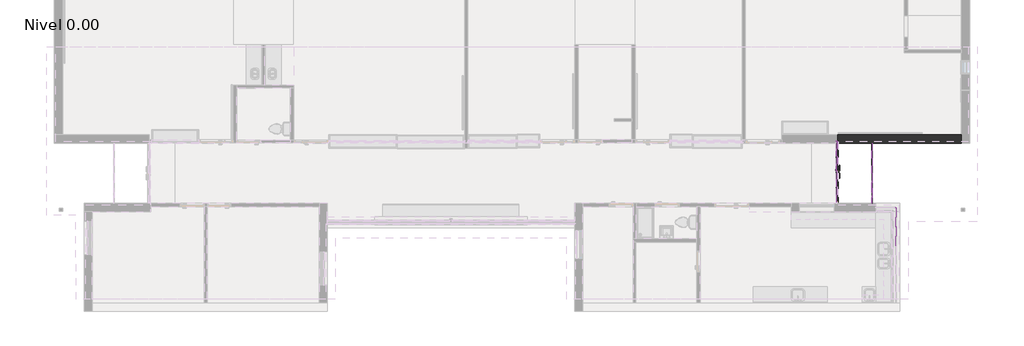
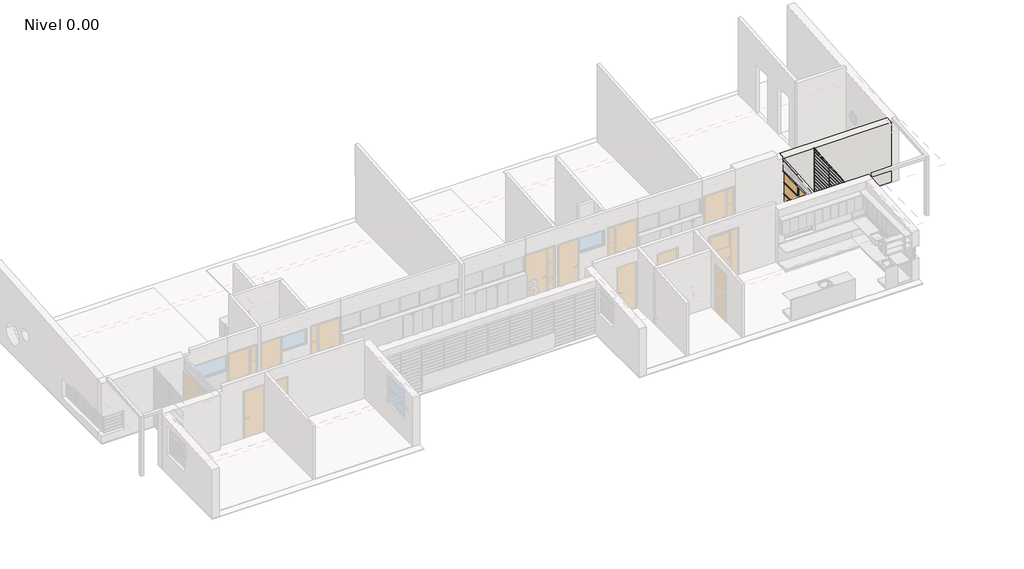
# One storey, part 11 of 27: 88 members, 38 plates, 1 door, 1 wall.
"""IFC4 building model written with IfcOpenShell, lengths in millimetres."""

from ifc_helpers import new_model, si_unit, origin, place, context, project, spatial, faceted_brep, transform, mapped, element, save
from components import door_a64e3521, circular_mullion_800c9cf9, circular_mullion_ed335fbc, circular_mullion_096046af, circular_mullion_f5175227, l_corner_mullion_f6289c26, l_corner_mullion_42859779, l_corner_mullion_7e269581, l_corner_mullion_4a4ba9d3, l_corner_mullion_ea8db583, rectangular_mullion_e6a18c8c, rectangular_mullion_ff7ab27e, rectangular_mullion_c34d28c6, rectangular_mullion_0e712f1e, rectangular_mullion_3ce97fec, rectangular_mullion_3f5f0f74, rectangular_mullion_a5abb8e0, rectangular_mullion_363bff1e, rectangular_mullion_2051d734, rectangular_mullion_823d3a73, rectangular_mullion_cfaebaba, rectangular_mullion_499acf86, rectangular_mullion_331b5978, rectangular_mullion_2d035fdd, system_panel_9483af97, system_panel_162e740d, system_panel_b2f76736, system_panel_09b09f1b, system_panel_1aced122, system_panel_28e329e3, system_panel_b9515c6a, system_panel_71210e79, system_panel_glazed_c627329a, system_panel_glazed_638efc96

model = new_model("IFC4")

# Units and contexts
model_context = context("Model", 3, world=origin())
ifc_project = project(units=[si_unit("LENGTHUNIT", "METRE", prefix="MILLI")], contexts=[model_context])

# Site, building, storey
site = spatial("IfcSite", under=ifc_project)
building = spatial("IfcBuilding", under=site)
storey = spatial("IfcBuildingStorey", under=building, Name="Nivel 0.00", Elevation=0.0)

# Door
placement = place(None, origin())
door_shape = door_a64e3521(model_context)
element("IfcDoor", 1, ObjectType="PUERTA_ACCESO : PUERTA_ACCESO", at=placement, inside=storey, context=model_context, shape_type="MappedRepresentation", body=[
    mapped(door_shape, transform((12973.3180123, -1916.8641749, 30.0), x_axis=(0.0, -1.0, 0.0), y_axis=(1.0, 0.0, 0.0), z_axis=(0.0, 0.0, 1.0))),
])

# Members
circular_mullion_shape = circular_mullion_800c9cf9(model_context)
element("IfcMember", 2, ObjectType="Circular Mullion : ARQ_HERR_16mm", at=placement, inside=storey, context=model_context, shape_type="MappedRepresentation", body=[
    mapped(circular_mullion_shape, transform((15175.5015264, -3955.4185966, 1362.5), x_axis=(0.0, 0.0, 1.0), y_axis=(1.0, 0.0, 0.0), z_axis=(0.0, 1.0, 0.0))),
])
element("IfcMember", 3, ObjectType="Circular Mullion : ARQ_HERR_16mm", at=placement, inside=storey, context=model_context, shape_type="MappedRepresentation", body=[
    mapped(circular_mullion_shape, transform((15175.5015264, -3246.6637592, 1362.5), x_axis=(0.0, 0.0, 1.0), y_axis=(1.0, 0.0, 0.0), z_axis=(0.0, 1.0, 0.0))),
])
circular_mullion_2_shape = circular_mullion_ed335fbc(model_context)
element("IfcMember", 4, ObjectType="Circular Mullion : ARQ_HERR_16mm", at=placement, inside=storey, context=model_context, shape_type="MappedRepresentation", body=[
    mapped(circular_mullion_2_shape, transform((14293.3180123, -1972.3936718, 148.033564), x_axis=(0.0, 0.0, 1.0), y_axis=(1.0, 0.0, 0.0), z_axis=(0.0, 1.0, 0.0))),
])
element("IfcMember", 5, ObjectType="Circular Mullion : ARQ_HERR_16mm", at=placement, inside=storey, context=model_context, shape_type="MappedRepresentation", body=[
    mapped(circular_mullion_2_shape, transform((14293.3180123, -854.1235845, 148.033564), x_axis=(0.0, 0.0, 1.0), y_axis=(1.0, 0.0, 0.0), z_axis=(0.0, 1.0, 0.0))),
])
element("IfcMember", 6, ObjectType="Circular Mullion : ARQ_HERR_16mm", at=placement, inside=storey, context=model_context, shape_type="MappedRepresentation", body=[
    mapped(circular_mullion_2_shape, transform((14293.3180123, -1972.3936718, 296.0671279), x_axis=(0.0, 0.0, 1.0), y_axis=(1.0, 0.0, 0.0), z_axis=(0.0, 1.0, 0.0))),
])
element("IfcMember", 7, ObjectType="Circular Mullion : ARQ_HERR_16mm", at=placement, inside=storey, context=model_context, shape_type="MappedRepresentation", body=[
    mapped(circular_mullion_2_shape, transform((14293.3180123, -854.1235845, 296.0671279), x_axis=(0.0, 0.0, 1.0), y_axis=(1.0, 0.0, 0.0), z_axis=(0.0, 1.0, 0.0))),
])
element("IfcMember", 8, ObjectType="Circular Mullion : ARQ_HERR_16mm", at=placement, inside=storey, context=model_context, shape_type="MappedRepresentation", body=[
    mapped(circular_mullion_2_shape, transform((14293.3180123, -1972.3936718, 444.1006919), x_axis=(0.0, 0.0, 1.0), y_axis=(1.0, 0.0, 0.0), z_axis=(0.0, 1.0, 0.0))),
])
element("IfcMember", 9, ObjectType="Circular Mullion : ARQ_HERR_16mm", at=placement, inside=storey, context=model_context, shape_type="MappedRepresentation", body=[
    mapped(circular_mullion_2_shape, transform((14293.3180123, -854.1235845, 444.1006919), x_axis=(0.0, 0.0, 1.0), y_axis=(1.0, 0.0, 0.0), z_axis=(0.0, 1.0, 0.0))),
])
element("IfcMember", 10, ObjectType="Circular Mullion : ARQ_HERR_16mm", at=placement, inside=storey, context=model_context, shape_type="MappedRepresentation", body=[
    mapped(circular_mullion_2_shape, transform((14293.3180123, -1972.3936718, 592.1342559), x_axis=(0.0, 0.0, 1.0), y_axis=(1.0, 0.0, 0.0), z_axis=(0.0, 1.0, 0.0))),
])
element("IfcMember", 11, ObjectType="Circular Mullion : ARQ_HERR_16mm", at=placement, inside=storey, context=model_context, shape_type="MappedRepresentation", body=[
    mapped(circular_mullion_2_shape, transform((14293.3180123, -854.1235845, 592.1342559), x_axis=(0.0, 0.0, 1.0), y_axis=(1.0, 0.0, 0.0), z_axis=(0.0, 1.0, 0.0))),
])
element("IfcMember", 12, ObjectType="Circular Mullion : ARQ_HERR_16mm", at=placement, inside=storey, context=model_context, shape_type="MappedRepresentation", body=[
    mapped(circular_mullion_2_shape, transform((14293.3180123, -1972.3936718, 740.1678198), x_axis=(0.0, 0.0, 1.0), y_axis=(1.0, 0.0, 0.0), z_axis=(0.0, 1.0, 0.0))),
])
element("IfcMember", 13, ObjectType="Circular Mullion : ARQ_HERR_16mm", at=placement, inside=storey, context=model_context, shape_type="MappedRepresentation", body=[
    mapped(circular_mullion_2_shape, transform((14293.3180123, -854.1235845, 740.1678198), x_axis=(0.0, 0.0, 1.0), y_axis=(1.0, 0.0, 0.0), z_axis=(0.0, 1.0, 0.0))),
])
element("IfcMember", 14, ObjectType="Circular Mullion : ARQ_HERR_16mm", at=placement, inside=storey, context=model_context, shape_type="MappedRepresentation", body=[
    mapped(circular_mullion_2_shape, transform((14293.3180123, -1972.3936718, 888.2013838), x_axis=(0.0, 0.0, 1.0), y_axis=(1.0, 0.0, 0.0), z_axis=(0.0, 1.0, 0.0))),
])
element("IfcMember", 15, ObjectType="Circular Mullion : ARQ_HERR_16mm", at=placement, inside=storey, context=model_context, shape_type="MappedRepresentation", body=[
    mapped(circular_mullion_2_shape, transform((14293.3180123, -854.1235845, 888.2013838), x_axis=(0.0, 0.0, 1.0), y_axis=(1.0, 0.0, 0.0), z_axis=(0.0, 1.0, 0.0))),
])
element("IfcMember", 16, ObjectType="Circular Mullion : ARQ_HERR_16mm", at=placement, inside=storey, context=model_context, shape_type="MappedRepresentation", body=[
    mapped(circular_mullion_2_shape, transform((14293.3180123, -1972.3936718, 1036.2349478), x_axis=(0.0, 0.0, 1.0), y_axis=(1.0, 0.0, 0.0), z_axis=(0.0, 1.0, 0.0))),
])
element("IfcMember", 17, ObjectType="Circular Mullion : ARQ_HERR_16mm", at=placement, inside=storey, context=model_context, shape_type="MappedRepresentation", body=[
    mapped(circular_mullion_2_shape, transform((14293.3180123, -854.1235845, 1036.2349478), x_axis=(0.0, 0.0, 1.0), y_axis=(1.0, 0.0, 0.0), z_axis=(0.0, 1.0, 0.0))),
])
element("IfcMember", 18, ObjectType="Circular Mullion : ARQ_HERR_16mm", at=placement, inside=storey, context=model_context, shape_type="MappedRepresentation", body=[
    mapped(circular_mullion_2_shape, transform((14293.3180123, -1972.3936718, 1184.2685118), x_axis=(0.0, 0.0, 1.0), y_axis=(1.0, 0.0, 0.0), z_axis=(0.0, 1.0, 0.0))),
])
element("IfcMember", 19, ObjectType="Circular Mullion : ARQ_HERR_16mm", at=placement, inside=storey, context=model_context, shape_type="MappedRepresentation", body=[
    mapped(circular_mullion_2_shape, transform((14293.3180123, -854.1235845, 1184.2685118), x_axis=(0.0, 0.0, 1.0), y_axis=(1.0, 0.0, 0.0), z_axis=(0.0, 1.0, 0.0))),
])
element("IfcMember", 20, ObjectType="Circular Mullion : ARQ_HERR_16mm", at=placement, inside=storey, context=model_context, shape_type="MappedRepresentation", body=[
    mapped(circular_mullion_2_shape, transform((14293.3180123, -1972.3936718, 1332.3020757), x_axis=(0.0, 0.0, 1.0), y_axis=(1.0, 0.0, 0.0), z_axis=(0.0, 1.0, 0.0))),
])
element("IfcMember", 21, ObjectType="Circular Mullion : ARQ_HERR_16mm", at=placement, inside=storey, context=model_context, shape_type="MappedRepresentation", body=[
    mapped(circular_mullion_2_shape, transform((14293.3180123, -854.1235845, 1332.3020757), x_axis=(0.0, 0.0, 1.0), y_axis=(1.0, 0.0, 0.0), z_axis=(0.0, 1.0, 0.0))),
])
element("IfcMember", 22, ObjectType="Circular Mullion : ARQ_HERR_16mm", at=placement, inside=storey, context=model_context, shape_type="MappedRepresentation", body=[
    mapped(circular_mullion_2_shape, transform((14293.3180123, -1972.3936718, 1480.3356397), x_axis=(0.0, 0.0, 1.0), y_axis=(1.0, 0.0, 0.0), z_axis=(0.0, 1.0, 0.0))),
])
element("IfcMember", 23, ObjectType="Circular Mullion : ARQ_HERR_16mm", at=placement, inside=storey, context=model_context, shape_type="MappedRepresentation", body=[
    mapped(circular_mullion_2_shape, transform((14293.3180123, -854.1235845, 1480.3356397), x_axis=(0.0, 0.0, 1.0), y_axis=(1.0, 0.0, 0.0), z_axis=(0.0, 1.0, 0.0))),
])
element("IfcMember", 24, ObjectType="Circular Mullion : ARQ_HERR_16mm", at=placement, inside=storey, context=model_context, shape_type="MappedRepresentation", body=[
    mapped(circular_mullion_2_shape, transform((14293.3180123, -1972.3936718, 1628.3692037), x_axis=(0.0, 0.0, 1.0), y_axis=(1.0, 0.0, 0.0), z_axis=(0.0, 1.0, 0.0))),
])
element("IfcMember", 25, ObjectType="Circular Mullion : ARQ_HERR_16mm", at=placement, inside=storey, context=model_context, shape_type="MappedRepresentation", body=[
    mapped(circular_mullion_2_shape, transform((14293.3180123, -854.1235845, 1628.3692037), x_axis=(0.0, 0.0, 1.0), y_axis=(1.0, 0.0, 0.0), z_axis=(0.0, 1.0, 0.0))),
])
element("IfcMember", 26, ObjectType="Circular Mullion : ARQ_HERR_16mm", at=placement, inside=storey, context=model_context, shape_type="MappedRepresentation", body=[
    mapped(circular_mullion_2_shape, transform((14293.3180123, -1972.3936718, 1776.4027676), x_axis=(0.0, 0.0, 1.0), y_axis=(1.0, 0.0, 0.0), z_axis=(0.0, 1.0, 0.0))),
])
element("IfcMember", 27, ObjectType="Circular Mullion : ARQ_HERR_16mm", at=placement, inside=storey, context=model_context, shape_type="MappedRepresentation", body=[
    mapped(circular_mullion_2_shape, transform((14293.3180123, -854.1235845, 1776.4027676), x_axis=(0.0, 0.0, 1.0), y_axis=(1.0, 0.0, 0.0), z_axis=(0.0, 1.0, 0.0))),
])
element("IfcMember", 28, ObjectType="Circular Mullion : ARQ_HERR_16mm", at=placement, inside=storey, context=model_context, shape_type="MappedRepresentation", body=[
    mapped(circular_mullion_2_shape, transform((14293.3180123, -1972.3936718, 1924.4363316), x_axis=(0.0, 0.0, 1.0), y_axis=(1.0, 0.0, 0.0), z_axis=(0.0, 1.0, 0.0))),
])
element("IfcMember", 29, ObjectType="Circular Mullion : ARQ_HERR_16mm", at=placement, inside=storey, context=model_context, shape_type="MappedRepresentation", body=[
    mapped(circular_mullion_2_shape, transform((14293.3180123, -854.1235845, 1924.4363316), x_axis=(0.0, 0.0, 1.0), y_axis=(1.0, 0.0, 0.0), z_axis=(0.0, 1.0, 0.0))),
])
circular_mullion_3_shape = circular_mullion_096046af(model_context)
element("IfcMember", 30, ObjectType="Circular Mullion : ARQ_HERR_16mm", at=placement, inside=storey, context=model_context, shape_type="MappedRepresentation", body=[
    mapped(circular_mullion_3_shape, transform((14293.3180123, -1969.3936718, 2220.5034595), x_axis=(0.0, 0.0, 1.0), y_axis=(1.0, 0.0, 0.0), z_axis=(0.0, 1.0, 0.0))),
])
element("IfcMember", 31, ObjectType="Circular Mullion : ARQ_HERR_16mm", at=placement, inside=storey, context=model_context, shape_type="MappedRepresentation", body=[
    mapped(circular_mullion_3_shape, transform((14293.3180123, -1969.3936718, 2368.5370235), x_axis=(0.0, 0.0, 1.0), y_axis=(1.0, 0.0, 0.0), z_axis=(0.0, 1.0, 0.0))),
])
element("IfcMember", 32, ObjectType="Circular Mullion : ARQ_HERR_16mm", at=placement, inside=storey, context=model_context, shape_type="MappedRepresentation", body=[
    mapped(circular_mullion_3_shape, transform((14293.3180123, -854.1235845, 2220.5034595), x_axis=(0.0, 0.0, 1.0), y_axis=(1.0, 0.0, 0.0), z_axis=(0.0, 1.0, 0.0))),
])
element("IfcMember", 33, ObjectType="Circular Mullion : ARQ_HERR_16mm", at=placement, inside=storey, context=model_context, shape_type="MappedRepresentation", body=[
    mapped(circular_mullion_3_shape, transform((14293.3180123, -854.1235845, 2368.5370235), x_axis=(0.0, 0.0, 1.0), y_axis=(1.0, 0.0, 0.0), z_axis=(0.0, 1.0, 0.0))),
])
element("IfcMember", 34, ObjectType="Circular Mullion : ARQ_HERR_16mm", at=placement, inside=storey, context=model_context, shape_type="MappedRepresentation", body=[
    mapped(circular_mullion_3_shape, transform((14293.3180123, -854.1235845, 2516.5705875), x_axis=(0.0, 0.0, 1.0), y_axis=(1.0, 0.0, 0.0), z_axis=(0.0, 1.0, 0.0))),
])
circular_mullion_4_shape = circular_mullion_f5175227(model_context)
element("IfcMember", 35, ObjectType="Circular Mullion : ARQ_HERR_16mm", at=placement, inside=storey, context=model_context, shape_type="MappedRepresentation", body=[
    mapped(circular_mullion_4_shape, transform((14293.3180123, -1969.3936718, 2516.5705875), x_axis=(0.0, 0.0, 1.0), y_axis=(1.0, 0.0, 0.0), z_axis=(0.0, 1.0, 0.0))),
])
l_corner_mullion_shape = l_corner_mullion_f6289c26(model_context)
element("IfcMember", 36, ObjectType="L Corner Mullion : ARQ_HERR_15X6mm", at=placement, inside=storey, context=model_context, shape_type="MappedRepresentation", body=[
    mapped(l_corner_mullion_shape, transform((15162.0015264, -3239.1638203, 950.0), x_axis=(0.0, 0.0, -1.0), y_axis=(0.0, 1.0, 0.0), z_axis=(1.0, 0.0, 0.0))),
])
l_corner_mullion_2_shape = l_corner_mullion_42859779(model_context)
element("IfcMember", 37, ObjectType="L Corner Mullion : ARQ_HERR_15X6mm", at=placement, inside=storey, context=model_context, shape_type="MappedRepresentation", body=[
    mapped(l_corner_mullion_2_shape, transform((14293.3180123, -1966.3936718, 0.0), x_axis=(0.0, 0.0, -1.0), y_axis=(1.0, 0.0, 0.0), z_axis=(0.0, -1.0, 0.0))),
])
l_corner_mullion_3_shape = l_corner_mullion_7e269581(model_context)
element("IfcMember", 38, ObjectType="L Corner Mullion : ARQ_HERR_15X6mm", at=placement, inside=storey, context=model_context, shape_type="MappedRepresentation", body=[
    mapped(l_corner_mullion_3_shape, transform((14293.3180123, -848.1235845, 2664.6041514), x_axis=(0.0, -0.08041785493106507, 0.9967612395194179), y_axis=(1.0, 0.0, 0.0), z_axis=(0.0, 0.9967612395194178, 0.08041785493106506))),
])
l_corner_mullion_4_shape = l_corner_mullion_4a4ba9d3(model_context)
element("IfcMember", 39, ObjectType="L Corner Mullion : ARQ_HERR_15X6mm", at=placement, inside=storey, context=model_context, shape_type="MappedRepresentation", body=[
    mapped(l_corner_mullion_4_shape, transform((14293.3180123, -1969.3936718, 2574.1410278), x_axis=(0.0, -0.08041785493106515, 0.9967612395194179), y_axis=(1.0, 0.0, 0.0), z_axis=(0.0, 0.9967612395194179, 0.08041785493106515))),
])
l_corner_mullion_5_shape = l_corner_mullion_ea8db583(model_context)
element("IfcMember", 40, ObjectType="L Corner Mullion : ARQ_HERR_15X6mm", at=placement, inside=storey, context=model_context, shape_type="MappedRepresentation", body=[
    mapped(l_corner_mullion_5_shape, transform((14293.3180123, -2682.9663422, 2516.5705875), x_axis=(0.0, -0.08041785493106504, 0.9967612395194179), y_axis=(1.0, 0.0, 0.0), z_axis=(0.0, 0.9967612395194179, 0.08041785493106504))),
])
rectangular_mullion_shape = rectangular_mullion_e6a18c8c(model_context)
element("IfcMember", 41, ObjectType="Rectangular Mullion : ARQ_TV_MULL_50x30mm", at=placement, inside=storey, context=model_context, shape_type="MappedRepresentation", body=[
    mapped(rectangular_mullion_shape, transform((12973.3180123, -780.6235845, 0.0), x_axis=(0.0, 0.0, -1.0), y_axis=(-1.0, 0.0, 0.0), z_axis=(0.0, 1.0, 0.0))),
])
rectangular_mullion_2_shape = rectangular_mullion_ff7ab27e(model_context)
element("IfcMember", 42, ObjectType="Rectangular Mullion : ARQ_TV_MULL_50x30mm", at=placement, inside=storey, context=model_context, shape_type="MappedRepresentation", body=[
    mapped(rectangular_mullion_2_shape, transform((12973.3180123, -1901.8641749, 0.0), x_axis=(0.0, 0.0, -1.0), y_axis=(-1.0, 0.0, 0.0), z_axis=(0.0, 1.0, 0.0))),
])
rectangular_mullion_3_shape = rectangular_mullion_c34d28c6(model_context)
element("IfcMember", 43, ObjectType="Rectangular Mullion : ARQ_TV_MULL_50x30mm", at=placement, inside=storey, context=model_context, shape_type="MappedRepresentation", body=[
    mapped(rectangular_mullion_3_shape, transform((12973.3180123, -1901.8641749, 2100.0), x_axis=(0.0, 0.0, 1.0), y_axis=(-1.0, 0.0, 0.0), z_axis=(0.0, -1.0, 0.0))),
])
rectangular_mullion_4_shape = rectangular_mullion_0e712f1e(model_context)
element("IfcMember", 44, ObjectType="Rectangular Mullion : ARQ_HERR_15X6mm", at=placement, inside=storey, context=model_context, shape_type="MappedRepresentation", body=[
    mapped(rectangular_mullion_4_shape, transform((15175.5015264, -3952.4185966, 950.0), x_axis=(0.0, 1.0, 0.0), y_axis=(1.0, 0.0, 0.0), z_axis=(0.0, 0.0, -1.0))),
])
element("IfcMember", 45, ObjectType="Rectangular Mullion : ARQ_HERR_15X6mm", at=placement, inside=storey, context=model_context, shape_type="MappedRepresentation", body=[
    mapped(rectangular_mullion_4_shape, transform((15175.5015264, -3952.4185966, 1087.5), x_axis=(0.0, 1.0, 0.0), y_axis=(1.0, 0.0, 0.0), z_axis=(0.0, 0.0, -1.0))),
])
element("IfcMember", 46, ObjectType="Rectangular Mullion : ARQ_HERR_15X6mm", at=placement, inside=storey, context=model_context, shape_type="MappedRepresentation", body=[
    mapped(rectangular_mullion_4_shape, transform((15175.5015264, -3952.4185966, 1225.0), x_axis=(0.0, 1.0, 0.0), y_axis=(1.0, 0.0, 0.0), z_axis=(0.0, 0.0, -1.0))),
])
element("IfcMember", 47, ObjectType="Rectangular Mullion : ARQ_HERR_15X6mm", at=placement, inside=storey, context=model_context, shape_type="MappedRepresentation", body=[
    mapped(rectangular_mullion_4_shape, transform((15175.5015264, -3952.4185966, 1362.5), x_axis=(0.0, 1.0, 0.0), y_axis=(1.0, 0.0, 0.0), z_axis=(0.0, 0.0, -1.0))),
])
rectangular_mullion_5_shape = rectangular_mullion_3ce97fec(model_context)
element("IfcMember", 48, ObjectType="Rectangular Mullion : ARQ_HERR_15X6mm", at=placement, inside=storey, context=model_context, shape_type="MappedRepresentation", body=[
    mapped(rectangular_mullion_5_shape, transform((15168.0015264, -3239.1638203, 1500.0), x_axis=(1.0, 0.0, 0.0), y_axis=(0.0, 1.0, 0.0), z_axis=(0.0, 0.0, 1.0))),
])
element("IfcMember", 49, ObjectType="Rectangular Mullion : ARQ_HERR_15X6mm", at=placement, inside=storey, context=model_context, shape_type="MappedRepresentation", body=[
    mapped(rectangular_mullion_5_shape, transform((15168.0015264, -3239.1638203, 1087.5), x_axis=(1.0, 0.0, 0.0), y_axis=(0.0, 1.0, 0.0), z_axis=(0.0, 0.0, 1.0))),
])
element("IfcMember", 50, ObjectType="Rectangular Mullion : ARQ_HERR_15X6mm", at=placement, inside=storey, context=model_context, shape_type="MappedRepresentation", body=[
    mapped(rectangular_mullion_5_shape, transform((15168.0015264, -3239.1638203, 1225.0), x_axis=(1.0, 0.0, 0.0), y_axis=(0.0, 1.0, 0.0), z_axis=(0.0, 0.0, 1.0))),
])
element("IfcMember", 51, ObjectType="Rectangular Mullion : ARQ_HERR_15X6mm", at=placement, inside=storey, context=model_context, shape_type="MappedRepresentation", body=[
    mapped(rectangular_mullion_5_shape, transform((15168.0015264, -3239.1638203, 1362.5), x_axis=(1.0, 0.0, 0.0), y_axis=(0.0, 1.0, 0.0), z_axis=(0.0, 0.0, 1.0))),
])
rectangular_mullion_6_shape = rectangular_mullion_3f5f0f74(model_context)
element("IfcMember", 52, ObjectType="Rectangular Mullion : ARQ_HERR_15X6mm", at=placement, inside=storey, context=model_context, shape_type="MappedRepresentation", body=[
    mapped(rectangular_mullion_6_shape, transform((14293.3180123, -1969.3936718, 0.0), x_axis=(0.0, 1.0, 0.0), y_axis=(1.0, 0.0, 0.0), z_axis=(0.0, 0.0, -1.0))),
])
element("IfcMember", 53, ObjectType="Rectangular Mullion : ARQ_HERR_15X6mm", at=placement, inside=storey, context=model_context, shape_type="MappedRepresentation", body=[
    mapped(rectangular_mullion_6_shape, transform((14293.3180123, -1969.3936718, 148.033564), x_axis=(0.0, 1.0, 0.0), y_axis=(1.0, 0.0, 0.0), z_axis=(0.0, 0.0, -1.0))),
])
element("IfcMember", 54, ObjectType="Rectangular Mullion : ARQ_HERR_15X6mm", at=placement, inside=storey, context=model_context, shape_type="MappedRepresentation", body=[
    mapped(rectangular_mullion_6_shape, transform((14293.3180123, -1969.3936718, 296.0671279), x_axis=(0.0, 1.0, 0.0), y_axis=(1.0, 0.0, 0.0), z_axis=(0.0, 0.0, -1.0))),
])
element("IfcMember", 55, ObjectType="Rectangular Mullion : ARQ_HERR_15X6mm", at=placement, inside=storey, context=model_context, shape_type="MappedRepresentation", body=[
    mapped(rectangular_mullion_6_shape, transform((14293.3180123, -1969.3936718, 444.1006919), x_axis=(0.0, 1.0, 0.0), y_axis=(1.0, 0.0, 0.0), z_axis=(0.0, 0.0, -1.0))),
])
element("IfcMember", 56, ObjectType="Rectangular Mullion : ARQ_HERR_15X6mm", at=placement, inside=storey, context=model_context, shape_type="MappedRepresentation", body=[
    mapped(rectangular_mullion_6_shape, transform((14293.3180123, -1969.3936718, 592.1342559), x_axis=(0.0, 1.0, 0.0), y_axis=(1.0, 0.0, 0.0), z_axis=(0.0, 0.0, -1.0))),
])
element("IfcMember", 57, ObjectType="Rectangular Mullion : ARQ_HERR_15X6mm", at=placement, inside=storey, context=model_context, shape_type="MappedRepresentation", body=[
    mapped(rectangular_mullion_6_shape, transform((14293.3180123, -1969.3936718, 740.1678198), x_axis=(0.0, 1.0, 0.0), y_axis=(1.0, 0.0, 0.0), z_axis=(0.0, 0.0, -1.0))),
])
element("IfcMember", 58, ObjectType="Rectangular Mullion : ARQ_HERR_15X6mm", at=placement, inside=storey, context=model_context, shape_type="MappedRepresentation", body=[
    mapped(rectangular_mullion_6_shape, transform((14293.3180123, -1969.3936718, 888.2013838), x_axis=(0.0, 1.0, 0.0), y_axis=(1.0, 0.0, 0.0), z_axis=(0.0, 0.0, -1.0))),
])
element("IfcMember", 59, ObjectType="Rectangular Mullion : ARQ_HERR_15X6mm", at=placement, inside=storey, context=model_context, shape_type="MappedRepresentation", body=[
    mapped(rectangular_mullion_6_shape, transform((14293.3180123, -1969.3936718, 1036.2349478), x_axis=(0.0, 1.0, 0.0), y_axis=(1.0, 0.0, 0.0), z_axis=(0.0, 0.0, -1.0))),
])
element("IfcMember", 60, ObjectType="Rectangular Mullion : ARQ_HERR_15X6mm", at=placement, inside=storey, context=model_context, shape_type="MappedRepresentation", body=[
    mapped(rectangular_mullion_6_shape, transform((14293.3180123, -1969.3936718, 1184.2685118), x_axis=(0.0, 1.0, 0.0), y_axis=(1.0, 0.0, 0.0), z_axis=(0.0, 0.0, -1.0))),
])
element("IfcMember", 61, ObjectType="Rectangular Mullion : ARQ_HERR_15X6mm", at=placement, inside=storey, context=model_context, shape_type="MappedRepresentation", body=[
    mapped(rectangular_mullion_6_shape, transform((14293.3180123, -1969.3936718, 1332.3020757), x_axis=(0.0, 1.0, 0.0), y_axis=(1.0, 0.0, 0.0), z_axis=(0.0, 0.0, -1.0))),
])
element("IfcMember", 62, ObjectType="Rectangular Mullion : ARQ_HERR_15X6mm", at=placement, inside=storey, context=model_context, shape_type="MappedRepresentation", body=[
    mapped(rectangular_mullion_6_shape, transform((14293.3180123, -1969.3936718, 1480.3356397), x_axis=(0.0, 1.0, 0.0), y_axis=(1.0, 0.0, 0.0), z_axis=(0.0, 0.0, -1.0))),
])
element("IfcMember", 63, ObjectType="Rectangular Mullion : ARQ_HERR_15X6mm", at=placement, inside=storey, context=model_context, shape_type="MappedRepresentation", body=[
    mapped(rectangular_mullion_6_shape, transform((14293.3180123, -1969.3936718, 1628.3692037), x_axis=(0.0, 1.0, 0.0), y_axis=(1.0, 0.0, 0.0), z_axis=(0.0, 0.0, -1.0))),
])
element("IfcMember", 64, ObjectType="Rectangular Mullion : ARQ_HERR_15X6mm", at=placement, inside=storey, context=model_context, shape_type="MappedRepresentation", body=[
    mapped(rectangular_mullion_6_shape, transform((14293.3180123, -1969.3936718, 1776.4027676), x_axis=(0.0, 1.0, 0.0), y_axis=(1.0, 0.0, 0.0), z_axis=(0.0, 0.0, -1.0))),
])
rectangular_mullion_7_shape = rectangular_mullion_a5abb8e0(model_context)
element("IfcMember", 65, ObjectType="Rectangular Mullion : ARQ_HERR_15X6mm", at=placement, inside=storey, context=model_context, shape_type="MappedRepresentation", body=[
    mapped(rectangular_mullion_7_shape, transform((14293.3180123, -848.1235845, 0.0), x_axis=(0.0, 1.0, 0.0), y_axis=(1.0, 0.0, 0.0), z_axis=(0.0, 0.0, -1.0))),
])
element("IfcMember", 66, ObjectType="Rectangular Mullion : ARQ_HERR_15X6mm", at=placement, inside=storey, context=model_context, shape_type="MappedRepresentation", body=[
    mapped(rectangular_mullion_7_shape, transform((14293.3180123, -848.1235845, 148.033564), x_axis=(0.0, 1.0, 0.0), y_axis=(1.0, 0.0, 0.0), z_axis=(0.0, 0.0, -1.0))),
])
element("IfcMember", 67, ObjectType="Rectangular Mullion : ARQ_HERR_15X6mm", at=placement, inside=storey, context=model_context, shape_type="MappedRepresentation", body=[
    mapped(rectangular_mullion_7_shape, transform((14293.3180123, -848.1235845, 296.0671279), x_axis=(0.0, 1.0, 0.0), y_axis=(1.0, 0.0, 0.0), z_axis=(0.0, 0.0, -1.0))),
])
element("IfcMember", 68, ObjectType="Rectangular Mullion : ARQ_HERR_15X6mm", at=placement, inside=storey, context=model_context, shape_type="MappedRepresentation", body=[
    mapped(rectangular_mullion_7_shape, transform((14293.3180123, -848.1235845, 444.1006919), x_axis=(0.0, 1.0, 0.0), y_axis=(1.0, 0.0, 0.0), z_axis=(0.0, 0.0, -1.0))),
])
element("IfcMember", 69, ObjectType="Rectangular Mullion : ARQ_HERR_15X6mm", at=placement, inside=storey, context=model_context, shape_type="MappedRepresentation", body=[
    mapped(rectangular_mullion_7_shape, transform((14293.3180123, -848.1235845, 592.1342559), x_axis=(0.0, 1.0, 0.0), y_axis=(1.0, 0.0, 0.0), z_axis=(0.0, 0.0, -1.0))),
])
element("IfcMember", 70, ObjectType="Rectangular Mullion : ARQ_HERR_15X6mm", at=placement, inside=storey, context=model_context, shape_type="MappedRepresentation", body=[
    mapped(rectangular_mullion_7_shape, transform((14293.3180123, -848.1235845, 740.1678198), x_axis=(0.0, 1.0, 0.0), y_axis=(1.0, 0.0, 0.0), z_axis=(0.0, 0.0, -1.0))),
])
element("IfcMember", 71, ObjectType="Rectangular Mullion : ARQ_HERR_15X6mm", at=placement, inside=storey, context=model_context, shape_type="MappedRepresentation", body=[
    mapped(rectangular_mullion_7_shape, transform((14293.3180123, -848.1235845, 888.2013838), x_axis=(0.0, 1.0, 0.0), y_axis=(1.0, 0.0, 0.0), z_axis=(0.0, 0.0, -1.0))),
])
element("IfcMember", 72, ObjectType="Rectangular Mullion : ARQ_HERR_15X6mm", at=placement, inside=storey, context=model_context, shape_type="MappedRepresentation", body=[
    mapped(rectangular_mullion_7_shape, transform((14293.3180123, -848.1235845, 1036.2349478), x_axis=(0.0, 1.0, 0.0), y_axis=(1.0, 0.0, 0.0), z_axis=(0.0, 0.0, -1.0))),
])
element("IfcMember", 73, ObjectType="Rectangular Mullion : ARQ_HERR_15X6mm", at=placement, inside=storey, context=model_context, shape_type="MappedRepresentation", body=[
    mapped(rectangular_mullion_7_shape, transform((14293.3180123, -848.1235845, 1184.2685118), x_axis=(0.0, 1.0, 0.0), y_axis=(1.0, 0.0, 0.0), z_axis=(0.0, 0.0, -1.0))),
])
element("IfcMember", 74, ObjectType="Rectangular Mullion : ARQ_HERR_15X6mm", at=placement, inside=storey, context=model_context, shape_type="MappedRepresentation", body=[
    mapped(rectangular_mullion_7_shape, transform((14293.3180123, -848.1235845, 1332.3020757), x_axis=(0.0, 1.0, 0.0), y_axis=(1.0, 0.0, 0.0), z_axis=(0.0, 0.0, -1.0))),
])
element("IfcMember", 75, ObjectType="Rectangular Mullion : ARQ_HERR_15X6mm", at=placement, inside=storey, context=model_context, shape_type="MappedRepresentation", body=[
    mapped(rectangular_mullion_7_shape, transform((14293.3180123, -848.1235845, 1480.3356397), x_axis=(0.0, 1.0, 0.0), y_axis=(1.0, 0.0, 0.0), z_axis=(0.0, 0.0, -1.0))),
])
element("IfcMember", 76, ObjectType="Rectangular Mullion : ARQ_HERR_15X6mm", at=placement, inside=storey, context=model_context, shape_type="MappedRepresentation", body=[
    mapped(rectangular_mullion_7_shape, transform((14293.3180123, -848.1235845, 1628.3692037), x_axis=(0.0, 1.0, 0.0), y_axis=(1.0, 0.0, 0.0), z_axis=(0.0, 0.0, -1.0))),
])
element("IfcMember", 77, ObjectType="Rectangular Mullion : ARQ_HERR_15X6mm", at=placement, inside=storey, context=model_context, shape_type="MappedRepresentation", body=[
    mapped(rectangular_mullion_7_shape, transform((14293.3180123, -848.1235845, 1776.4027676), x_axis=(0.0, 1.0, 0.0), y_axis=(1.0, 0.0, 0.0), z_axis=(0.0, 0.0, -1.0))),
])
element("IfcMember", 78, ObjectType="Rectangular Mullion : ARQ_HERR_15X6mm", at=placement, inside=storey, context=model_context, shape_type="MappedRepresentation", body=[
    mapped(rectangular_mullion_7_shape, transform((14293.3180123, -848.1235845, 1924.4363316), x_axis=(0.0, 1.0, 0.0), y_axis=(1.0, 0.0, 0.0), z_axis=(0.0, 0.0, -1.0))),
])
element("IfcMember", 79, ObjectType="Rectangular Mullion : ARQ_HERR_15X6mm", at=placement, inside=storey, context=model_context, shape_type="MappedRepresentation", body=[
    mapped(rectangular_mullion_7_shape, transform((14293.3180123, -848.1235845, 2072.4698956), x_axis=(0.0, 1.0, 0.0), y_axis=(1.0, 0.0, 0.0), z_axis=(0.0, 0.0, -1.0))),
])
element("IfcMember", 80, ObjectType="Rectangular Mullion : ARQ_HERR_15X6mm", at=placement, inside=storey, context=model_context, shape_type="MappedRepresentation", body=[
    mapped(rectangular_mullion_7_shape, transform((14293.3180123, -848.1235845, 2220.5034595), x_axis=(0.0, 1.0, 0.0), y_axis=(1.0, 0.0, 0.0), z_axis=(0.0, 0.0, -1.0))),
])
element("IfcMember", 81, ObjectType="Rectangular Mullion : ARQ_HERR_15X6mm", at=placement, inside=storey, context=model_context, shape_type="MappedRepresentation", body=[
    mapped(rectangular_mullion_7_shape, transform((14293.3180123, -848.1235845, 2368.5370235), x_axis=(0.0, 1.0, 0.0), y_axis=(1.0, 0.0, 0.0), z_axis=(0.0, 0.0, -1.0))),
])
rectangular_mullion_8_shape = rectangular_mullion_363bff1e(model_context)
element("IfcMember", 82, ObjectType="Rectangular Mullion : ARQ_HERR_15X6mm", at=placement, inside=storey, context=model_context, shape_type="MappedRepresentation", body=[
    mapped(rectangular_mullion_8_shape, transform((14293.3180123, -1969.3936718, 1924.4363316), x_axis=(0.0, 1.0, 0.0), y_axis=(1.0, 0.0, 0.0), z_axis=(0.0, 0.0, -1.0))),
])
rectangular_mullion_9_shape = rectangular_mullion_2051d734(model_context)
element("IfcMember", 83, ObjectType="Rectangular Mullion : ARQ_TV_MULL_50x30mm", at=placement, inside=storey, context=model_context, shape_type="MappedRepresentation", body=[
    mapped(rectangular_mullion_9_shape, transform((12973.3180123, -750.6235845, 2100.0), x_axis=(0.0, 1.0, 0.0), y_axis=(-1.0, 0.0, 0.0), z_axis=(0.0, 0.0, 1.0))),
])
rectangular_mullion_10_shape = rectangular_mullion_823d3a73(model_context)
element("IfcMember", 84, ObjectType="Rectangular Mullion : ARQ_TV_MULL_50x30mm", at=placement, inside=storey, context=model_context, shape_type="MappedRepresentation", body=[
    mapped(rectangular_mullion_10_shape, transform((12973.3180123, -750.6235845, 1336.2351845), x_axis=(0.0, 1.0, 0.0), y_axis=(-1.0, 0.0, 0.0), z_axis=(0.0, 0.0, 1.0))),
])
rectangular_mullion_11_shape = rectangular_mullion_cfaebaba(model_context)
element("IfcMember", 85, ObjectType="Rectangular Mullion : ARQ_TV_MULL_50x30mm", at=placement, inside=storey, context=model_context, shape_type="MappedRepresentation", body=[
    mapped(rectangular_mullion_11_shape, transform((12973.3180123, -1901.8641749, 2579.5892506), x_axis=(0.0, -0.08041785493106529, 0.9967612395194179), y_axis=(-1.0, 0.0, 0.0), z_axis=(0.0, -0.9967612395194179, -0.08041785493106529))),
])
rectangular_mullion_12_shape = rectangular_mullion_499acf86(model_context)
element("IfcMember", 86, ObjectType="Rectangular Mullion : ARQ_TV_MULL_50x30mm", at=placement, inside=storey, context=model_context, shape_type="MappedRepresentation", body=[
    mapped(rectangular_mullion_12_shape, transform((12973.3180123, -750.6235845, 2672.4703691), x_axis=(0.0, 1.0, 0.0), y_axis=(-1.0, 0.0, 0.0), z_axis=(0.0, 0.0, 1.0))),
])
rectangular_mullion_13_shape = rectangular_mullion_331b5978(model_context)
element("IfcMember", 87, ObjectType="Rectangular Mullion : ARQ_HERR_15X6mm", at=placement, inside=storey, context=model_context, shape_type="MappedRepresentation", body=[
    mapped(rectangular_mullion_13_shape, transform((14293.3180123, -848.1235845, 2516.5705875), x_axis=(0.0, 1.0, 0.0), y_axis=(1.0, 0.0, 0.0), z_axis=(0.0, 0.0, -1.0))),
])
rectangular_mullion_14_shape = rectangular_mullion_2d035fdd(model_context)
element("IfcMember", 88, ObjectType="Rectangular Mullion : ARQ_HERR_15X6mm", at=placement, inside=storey, context=model_context, shape_type="MappedRepresentation", body=[
    mapped(rectangular_mullion_14_shape, transform((14293.3180123, -1972.3936718, 2072.4698956), x_axis=(0.0, 0.0, 1.0), y_axis=(1.0, 0.0, 0.0), z_axis=(0.0, 1.0, 0.0))),
])
element("IfcMember", 89, ObjectType="Rectangular Mullion : ARQ_HERR_15X6mm", at=placement, inside=storey, context=model_context, shape_type="MappedRepresentation", body=[
    mapped(rectangular_mullion_14_shape, transform((14293.3180123, -854.1235845, 2072.4698956), x_axis=(0.0, 0.0, 1.0), y_axis=(1.0, 0.0, 0.0), z_axis=(0.0, 1.0, 0.0))),
])

# Plates
system_panel_shape = system_panel_9483af97(model_context)
element("IfcPlate", 90, ObjectType="System Panel : VACÍO", at=placement, inside=storey, context=model_context, shape_type="MappedRepresentation", body=[
    mapped(system_panel_shape, transform((14293.3180123, -2528.5287155, 6.0), x_axis=(0.0, 1.0, 0.0), y_axis=(-1.0, 0.0, 0.0), z_axis=(0.0, 0.0, 1.0))),
])
element("IfcPlate", 91, ObjectType="System Panel : VACÍO", at=placement, inside=storey, context=model_context, shape_type="MappedRepresentation", body=[
    mapped(system_panel_shape, transform((14293.3180123, -1410.2586281, 6.0), x_axis=(0.0, 1.0, 0.0), y_axis=(-1.0, 0.0, 0.0), z_axis=(0.0, 0.0, 1.0))),
])
system_panel_2_shape = system_panel_162e740d(model_context)
element("IfcPlate", 92, ObjectType="System Panel : VACÍO", at=placement, inside=storey, context=model_context, shape_type="MappedRepresentation", body=[
    mapped(system_panel_2_shape, transform((14293.3180123, -2528.5287155, 156.033564), x_axis=(0.0, 1.0, 0.0), y_axis=(-1.0, 0.0, 0.0), z_axis=(0.0, 0.0, 1.0))),
])
element("IfcPlate", 93, ObjectType="System Panel : VACÍO", at=placement, inside=storey, context=model_context, shape_type="MappedRepresentation", body=[
    mapped(system_panel_2_shape, transform((14293.3180123, -1410.2586281, 156.033564), x_axis=(0.0, 1.0, 0.0), y_axis=(-1.0, 0.0, 0.0), z_axis=(0.0, 0.0, 1.0))),
])
element("IfcPlate", 94, ObjectType="System Panel : VACÍO", at=placement, inside=storey, context=model_context, shape_type="MappedRepresentation", body=[
    mapped(system_panel_2_shape, transform((14293.3180123, -2528.5287155, 304.0671279), x_axis=(0.0, 1.0, 0.0), y_axis=(-1.0, 0.0, 0.0), z_axis=(0.0, 0.0, 1.0))),
])
element("IfcPlate", 95, ObjectType="System Panel : VACÍO", at=placement, inside=storey, context=model_context, shape_type="MappedRepresentation", body=[
    mapped(system_panel_2_shape, transform((14293.3180123, -1410.2586281, 304.0671279), x_axis=(0.0, 1.0, 0.0), y_axis=(-1.0, 0.0, 0.0), z_axis=(0.0, 0.0, 1.0))),
])
element("IfcPlate", 96, ObjectType="System Panel : VACÍO", at=placement, inside=storey, context=model_context, shape_type="MappedRepresentation", body=[
    mapped(system_panel_2_shape, transform((14293.3180123, -2528.5287155, 452.1006919), x_axis=(0.0, 1.0, 0.0), y_axis=(-1.0, 0.0, 0.0), z_axis=(0.0, 0.0, 1.0))),
])
element("IfcPlate", 97, ObjectType="System Panel : VACÍO", at=placement, inside=storey, context=model_context, shape_type="MappedRepresentation", body=[
    mapped(system_panel_2_shape, transform((14293.3180123, -1410.2586281, 452.1006919), x_axis=(0.0, 1.0, 0.0), y_axis=(-1.0, 0.0, 0.0), z_axis=(0.0, 0.0, 1.0))),
])
element("IfcPlate", 98, ObjectType="System Panel : VACÍO", at=placement, inside=storey, context=model_context, shape_type="MappedRepresentation", body=[
    mapped(system_panel_2_shape, transform((14293.3180123, -2528.5287155, 600.1342559), x_axis=(0.0, 1.0, 0.0), y_axis=(-1.0, 0.0, 0.0), z_axis=(0.0, 0.0, 1.0))),
])
element("IfcPlate", 99, ObjectType="System Panel : VACÍO", at=placement, inside=storey, context=model_context, shape_type="MappedRepresentation", body=[
    mapped(system_panel_2_shape, transform((14293.3180123, -1410.2586281, 600.1342559), x_axis=(0.0, 1.0, 0.0), y_axis=(-1.0, 0.0, 0.0), z_axis=(0.0, 0.0, 1.0))),
])
element("IfcPlate", 100, ObjectType="System Panel : VACÍO", at=placement, inside=storey, context=model_context, shape_type="MappedRepresentation", body=[
    mapped(system_panel_2_shape, transform((14293.3180123, -2528.5287155, 748.1678198), x_axis=(0.0, 1.0, 0.0), y_axis=(-1.0, 0.0, 0.0), z_axis=(0.0, 0.0, 1.0))),
])
element("IfcPlate", 101, ObjectType="System Panel : VACÍO", at=placement, inside=storey, context=model_context, shape_type="MappedRepresentation", body=[
    mapped(system_panel_2_shape, transform((14293.3180123, -1410.2586281, 748.1678198), x_axis=(0.0, 1.0, 0.0), y_axis=(-1.0, 0.0, 0.0), z_axis=(0.0, 0.0, 1.0))),
])
element("IfcPlate", 102, ObjectType="System Panel : VACÍO", at=placement, inside=storey, context=model_context, shape_type="MappedRepresentation", body=[
    mapped(system_panel_2_shape, transform((14293.3180123, -2528.5287155, 896.2013838), x_axis=(0.0, 1.0, 0.0), y_axis=(-1.0, 0.0, 0.0), z_axis=(0.0, 0.0, 1.0))),
])
element("IfcPlate", 103, ObjectType="System Panel : VACÍO", at=placement, inside=storey, context=model_context, shape_type="MappedRepresentation", body=[
    mapped(system_panel_2_shape, transform((14293.3180123, -1410.2586281, 896.2013838), x_axis=(0.0, 1.0, 0.0), y_axis=(-1.0, 0.0, 0.0), z_axis=(0.0, 0.0, 1.0))),
])
element("IfcPlate", 104, ObjectType="System Panel : VACÍO", at=placement, inside=storey, context=model_context, shape_type="MappedRepresentation", body=[
    mapped(system_panel_2_shape, transform((14293.3180123, -2528.5287155, 1044.2349478), x_axis=(0.0, 1.0, 0.0), y_axis=(-1.0, 0.0, 0.0), z_axis=(0.0, 0.0, 1.0))),
])
element("IfcPlate", 105, ObjectType="System Panel : VACÍO", at=placement, inside=storey, context=model_context, shape_type="MappedRepresentation", body=[
    mapped(system_panel_2_shape, transform((14293.3180123, -1410.2586281, 1044.2349478), x_axis=(0.0, 1.0, 0.0), y_axis=(-1.0, 0.0, 0.0), z_axis=(0.0, 0.0, 1.0))),
])
element("IfcPlate", 106, ObjectType="System Panel : VACÍO", at=placement, inside=storey, context=model_context, shape_type="MappedRepresentation", body=[
    mapped(system_panel_2_shape, transform((14293.3180123, -2528.5287155, 1192.2685118), x_axis=(0.0, 1.0, 0.0), y_axis=(-1.0, 0.0, 0.0), z_axis=(0.0, 0.0, 1.0))),
])
element("IfcPlate", 107, ObjectType="System Panel : VACÍO", at=placement, inside=storey, context=model_context, shape_type="MappedRepresentation", body=[
    mapped(system_panel_2_shape, transform((14293.3180123, -1410.2586281, 1192.2685118), x_axis=(0.0, 1.0, 0.0), y_axis=(-1.0, 0.0, 0.0), z_axis=(0.0, 0.0, 1.0))),
])
element("IfcPlate", 108, ObjectType="System Panel : VACÍO", at=placement, inside=storey, context=model_context, shape_type="MappedRepresentation", body=[
    mapped(system_panel_2_shape, transform((14293.3180123, -2528.5287155, 1340.3020757), x_axis=(0.0, 1.0, 0.0), y_axis=(-1.0, 0.0, 0.0), z_axis=(0.0, 0.0, 1.0))),
])
element("IfcPlate", 109, ObjectType="System Panel : VACÍO", at=placement, inside=storey, context=model_context, shape_type="MappedRepresentation", body=[
    mapped(system_panel_2_shape, transform((14293.3180123, -1410.2586281, 1340.3020757), x_axis=(0.0, 1.0, 0.0), y_axis=(-1.0, 0.0, 0.0), z_axis=(0.0, 0.0, 1.0))),
])
element("IfcPlate", 110, ObjectType="System Panel : VACÍO", at=placement, inside=storey, context=model_context, shape_type="MappedRepresentation", body=[
    mapped(system_panel_2_shape, transform((14293.3180123, -2528.5287155, 1488.3356397), x_axis=(0.0, 1.0, 0.0), y_axis=(-1.0, 0.0, 0.0), z_axis=(0.0, 0.0, 1.0))),
])
element("IfcPlate", 111, ObjectType="System Panel : VACÍO", at=placement, inside=storey, context=model_context, shape_type="MappedRepresentation", body=[
    mapped(system_panel_2_shape, transform((14293.3180123, -1410.2586281, 1488.3356397), x_axis=(0.0, 1.0, 0.0), y_axis=(-1.0, 0.0, 0.0), z_axis=(0.0, 0.0, 1.0))),
])
element("IfcPlate", 112, ObjectType="System Panel : VACÍO", at=placement, inside=storey, context=model_context, shape_type="MappedRepresentation", body=[
    mapped(system_panel_2_shape, transform((14293.3180123, -2528.5287155, 1636.3692037), x_axis=(0.0, 1.0, 0.0), y_axis=(-1.0, 0.0, 0.0), z_axis=(0.0, 0.0, 1.0))),
])
element("IfcPlate", 113, ObjectType="System Panel : VACÍO", at=placement, inside=storey, context=model_context, shape_type="MappedRepresentation", body=[
    mapped(system_panel_2_shape, transform((14293.3180123, -1410.2586281, 1636.3692037), x_axis=(0.0, 1.0, 0.0), y_axis=(-1.0, 0.0, 0.0), z_axis=(0.0, 0.0, 1.0))),
])
element("IfcPlate", 114, ObjectType="System Panel : VACÍO", at=placement, inside=storey, context=model_context, shape_type="MappedRepresentation", body=[
    mapped(system_panel_2_shape, transform((14293.3180123, -2528.5287155, 1784.4027676), x_axis=(0.0, 1.0, 0.0), y_axis=(-1.0, 0.0, 0.0), z_axis=(0.0, 0.0, 1.0))),
])
element("IfcPlate", 115, ObjectType="System Panel : VACÍO", at=placement, inside=storey, context=model_context, shape_type="MappedRepresentation", body=[
    mapped(system_panel_2_shape, transform((14293.3180123, -1410.2586281, 1784.4027676), x_axis=(0.0, 1.0, 0.0), y_axis=(-1.0, 0.0, 0.0), z_axis=(0.0, 0.0, 1.0))),
])
system_panel_3_shape = system_panel_b2f76736(model_context)
element("IfcPlate", 116, ObjectType="System Panel : VACÍO", at=placement, inside=storey, context=model_context, shape_type="MappedRepresentation", body=[
    mapped(system_panel_3_shape, transform((14293.3180123, -2528.5287155, 1932.4363316), x_axis=(0.0, 1.0, 0.0), y_axis=(-1.0, 0.0, 0.0), z_axis=(0.0, 0.0, 1.0))),
])
element("IfcPlate", 117, ObjectType="System Panel : VACÍO", at=placement, inside=storey, context=model_context, shape_type="MappedRepresentation", body=[
    mapped(system_panel_3_shape, transform((14293.3180123, -1410.2586281, 1932.4363316), x_axis=(0.0, 1.0, 0.0), y_axis=(-1.0, 0.0, 0.0), z_axis=(0.0, 0.0, 1.0))),
])
system_panel_4_shape = system_panel_09b09f1b(model_context)
element("IfcPlate", 118, ObjectType="System Panel : VACÍO", at=placement, inside=storey, context=model_context, shape_type="MappedRepresentation", body=[
    mapped(system_panel_4_shape, transform((14293.3180123, -2527.0287155, 2075.4698956), x_axis=(0.0, 1.0, 0.0), y_axis=(-1.0, 0.0, 0.0), z_axis=(0.0, 0.0, 1.0))),
])
element("IfcPlate", 119, ObjectType="System Panel : VACÍO", at=placement, inside=storey, context=model_context, shape_type="MappedRepresentation", body=[
    mapped(system_panel_4_shape, transform((14293.3180123, -1411.7586281, 2075.4698956), x_axis=(0.0, 1.0, 0.0), y_axis=(-1.0, 0.0, 0.0), z_axis=(0.0, 0.0, 1.0))),
])
system_panel_5_shape = system_panel_1aced122(model_context)
element("IfcPlate", 120, ObjectType="System Panel : VACÍO", at=placement, inside=storey, context=model_context, shape_type="MappedRepresentation", body=[
    mapped(system_panel_5_shape, transform((14293.3180123, -2527.0287155, 2228.5034595), x_axis=(0.0, 1.0, 0.0), y_axis=(-1.0, 0.0, 0.0), z_axis=(0.0, 0.0, 1.0))),
])
element("IfcPlate", 121, ObjectType="System Panel : VACÍO", at=placement, inside=storey, context=model_context, shape_type="MappedRepresentation", body=[
    mapped(system_panel_5_shape, transform((14293.3180123, -1411.7586281, 2228.5034595), x_axis=(0.0, 1.0, 0.0), y_axis=(-1.0, 0.0, 0.0), z_axis=(0.0, 0.0, 1.0))),
])
element("IfcPlate", 122, ObjectType="System Panel : VACÍO", at=placement, inside=storey, context=model_context, shape_type="MappedRepresentation", body=[
    mapped(system_panel_5_shape, transform((14293.3180123, -1411.7586281, 2376.5370235), x_axis=(0.0, 1.0, 0.0), y_axis=(-1.0, 0.0, 0.0), z_axis=(0.0, 0.0, 1.0))),
])
system_panel_6_shape = system_panel_28e329e3(model_context)
element("IfcPlate", 123, ObjectType="System Panel : VACÍO", at=placement, inside=storey, context=model_context, shape_type="MappedRepresentation", body=[
    mapped(system_panel_6_shape, transform((14293.3180123, -2527.0287155, 2376.5370235), x_axis=(0.0, 1.0, 0.0), y_axis=(-1.0, 0.0, 0.0), z_axis=(0.0, 0.0, 1.0))),
])
system_panel_7_shape = system_panel_b9515c6a(model_context)
element("IfcPlate", 124, ObjectType="System Panel : VACÍO", at=placement, inside=storey, context=model_context, shape_type="MappedRepresentation", body=[
    mapped(system_panel_7_shape, transform((14293.3180123, -2239.2957577, 2524.5705875), x_axis=(0.0, 1.0, 0.0), y_axis=(-1.0, 0.0, 0.0), z_axis=(0.0, 0.0, 1.0))),
])
system_panel_8_shape = system_panel_71210e79(model_context)
element("IfcPlate", 125, ObjectType="System Panel : VACÍO", at=placement, inside=storey, context=model_context, shape_type="MappedRepresentation", body=[
    mapped(system_panel_8_shape, transform((14293.3180123, -1411.7586281, 2524.5705875), x_axis=(0.0, 1.0, 0.0), y_axis=(-1.0, 0.0, 0.0), z_axis=(0.0, 0.0, 1.0))),
])
system_panel_glazed_shape = system_panel_glazed_c627329a(model_context)
element("IfcPlate", 126, ObjectType="System Panel : Glazed", at=placement, inside=storey, context=model_context, shape_type="MappedRepresentation", body=[
    mapped(system_panel_glazed_shape, transform((-15830.2266664, 437.2546181, 330.0), x_axis=(0.0, -1.0, 0.0), y_axis=(1.0, 0.0, 0.0), z_axis=(0.0, 0.0, 1.0))),
])
system_panel_glazed_2_shape = system_panel_glazed_638efc96(model_context)
element("IfcPlate", 127, ObjectType="System Panel : Glazed", at=placement, inside=storey, context=model_context, shape_type="MappedRepresentation", body=[
    mapped(system_panel_glazed_2_shape, transform((12973.3180123, -1916.8641749, 2115.0), x_axis=(0.0, -1.0, 0.0), y_axis=(1.0, 0.0, 0.0), z_axis=(0.0, 0.0, 1.0))),
])

# Wall
element("IfcWall", 128, ObjectType="ARQ_MUR_M01B_315mm", at=placement, inside=storey, context=model_context, shape_type="Brep", body=[
    faceted_brep([(12998.3180123, -848.1235845, -20.0), (17597.6952928, -848.1235845, -20.0), (17597.6952928, -848.1235845, 2666.0546497), (12998.3180123, -848.1235845, 2666.0546497), (12998.3180123, -848.1235845, 2664.6041514), (12998.3180123, -533.1235845, -20.0), (12998.3180123, -533.1235845, 2691.4139863), (17597.6952928, -533.1235845, 2691.4139863), (17597.6952928, -533.1235845, -20.0)], [[[0, 1, 2, 3, 4]], [[5, 6, 7, 8]], [[1, 0, 5, 8]], [[0, 4, 3, 6, 5]], [[2, 1, 8, 7]], [[3, 2, 7, 6]]]),
])

save(model, "model.ifc")
